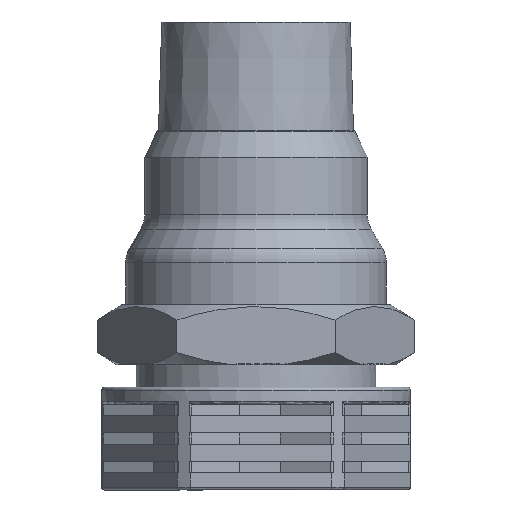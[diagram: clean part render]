
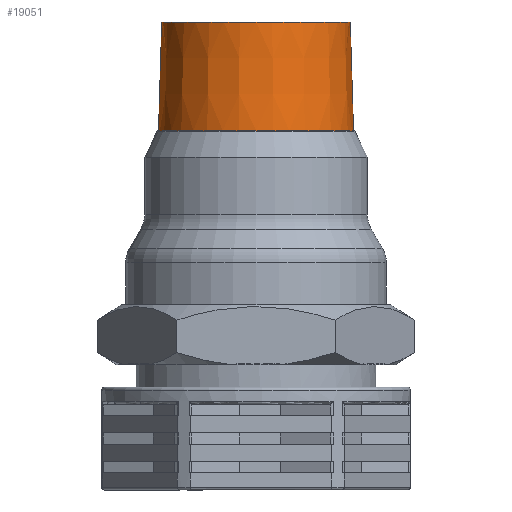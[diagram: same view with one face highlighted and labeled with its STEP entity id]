
A CAD part, front view. The second image highlights one B-rep face of the part: STEP entity #19051.
In plain terms, the highlighted conical face has half-angle 1.7 degrees and reference radius 16.5 mm.
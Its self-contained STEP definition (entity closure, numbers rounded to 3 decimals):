
#312 = CIRCLE ( 'NONE', #404, 17.064 ) ;
#401 = VECTOR ( 'NONE', #2774, 1000. ) ;
#403 = VECTOR ( 'NONE', #2780, 1000. ) ;
#404 = AXIS2_PLACEMENT_3D ( 'NONE', #2777, #2778, #2779 ) ;
#2766 = CARTESIAN_POINT ( 'NONE',  ( 16.5, 0., 60. ) ) ;
#2771 = LINE ( 'NONE', #2773, #401 ) ;
#2772 = LINE ( 'NONE', #2766, #403 ) ;
#2773 = CARTESIAN_POINT ( 'NONE',  ( -16.5, 0., 60. ) ) ;
#2774 = DIRECTION ( 'NONE',  ( -0.03, 0., -1. ) ) ;
#2777 = CARTESIAN_POINT ( 'NONE',  ( 0., 0., 41. ) ) ;
#2778 = DIRECTION ( 'NONE',  ( 0., 0., 1. ) ) ;
#2779 = DIRECTION ( 'NONE',  ( 1., 0., 0. ) ) ;
#2780 = DIRECTION ( 'NONE',  ( 0.03, 0., -1. ) ) ;
#4419 = DIRECTION ( 'NONE',  ( 1., 0., 0. ) ) ;
#4422 = FACE_OUTER_BOUND ( 'NONE', #15409, .T. ) ;
#4423 = DIRECTION ( 'NONE',  ( 0., 0., -1. ) ) ;
#4425 = CARTESIAN_POINT ( 'NONE',  ( 0., 0., 60. ) ) ;
#6382 = VERTEX_POINT ( 'NONE', #20369 ) ;
#6489 = VERTEX_POINT ( 'NONE', #20787 ) ;
#9794 = CARTESIAN_POINT ( 'NONE',  ( 0., 0., 60. ) ) ;
#9795 = DIRECTION ( 'NONE',  ( 0., 0., 1. ) ) ;
#9796 = DIRECTION ( 'NONE',  ( 1., 0., 0. ) ) ;
#12049 = VERTEX_POINT ( 'NONE', #21178 ) ;
#12142 = VERTEX_POINT ( 'NONE', #21271 ) ;
#14686 = CONICAL_SURFACE ( 'NONE', #14688, 16.5, 0.03 ) ;
#14688 = AXIS2_PLACEMENT_3D ( 'NONE', #4425, #4423, #4419 ) ;
#15409 = EDGE_LOOP ( 'NONE', ( #16574, #16575, #16576, #16577 ) ) ;
#16574 = ORIENTED_EDGE ( 'NONE', *, *, #17045, .F. ) ;
#16575 = ORIENTED_EDGE ( 'NONE', *, *, #18276, .T. ) ;
#16576 = ORIENTED_EDGE ( 'NONE', *, *, #18277, .T. ) ;
#16577 = ORIENTED_EDGE ( 'NONE', *, *, #18278, .F. ) ;
#17045 = EDGE_CURVE ( 'NONE', #6489, #12049, #23805, .T. ) ;
#18276 = EDGE_CURVE ( 'NONE', #6489, #6382, #2771, .T. ) ;
#18277 = EDGE_CURVE ( 'NONE', #6382, #12142, #312, .T. ) ;
#18278 = EDGE_CURVE ( 'NONE', #12049, #12142, #2772, .T. ) ;
#19051 = ADVANCED_FACE ( 'NONE', ( #4422 ), #14686, .T. ) ;
#20369 = CARTESIAN_POINT ( 'NONE',  ( -17.064, 0., 41. ) ) ;
#20787 = CARTESIAN_POINT ( 'NONE',  ( -16.5, 0., 60. ) ) ;
#21178 = CARTESIAN_POINT ( 'NONE',  ( 16.5, 0., 60. ) ) ;
#21271 = CARTESIAN_POINT ( 'NONE',  ( 17.064, 0., 41. ) ) ;
#23805 = CIRCLE ( 'NONE', #23807, 16.5 ) ;
#23807 = AXIS2_PLACEMENT_3D ( 'NONE', #9794, #9795, #9796 ) ;
